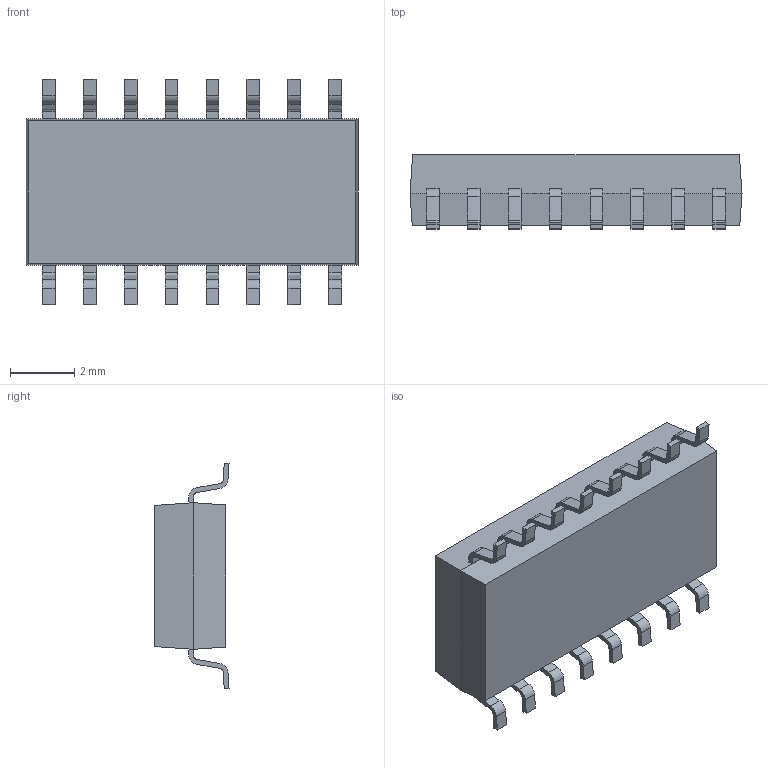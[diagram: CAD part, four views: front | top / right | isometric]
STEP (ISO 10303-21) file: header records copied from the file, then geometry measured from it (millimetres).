
FILE_DESCRIPTION (( 'STEP AP214' ), '1' );
FILE_NAME ('TLP291-4(GB,E).STEP', '2018-05-11T13:42:01', ( '' ), ( '' ), 'SwSTEP 2.0', 'SolidWorks 2017', '' );
FILE_SCHEMA (( 'AUTOMOTIVE_DESIGN' ));
Length unit declared in the file: millimetre
Products named in the file (1): TLP291-4(GB,E)
Bounding box: 10.3 x 2.3 x 7 mm (x, y, z)
Volume: 102.4 mm3; surface area: 191.5 mm2
Topology: 17 solids, 17 shells, 240 faces, 608 edges, 404 vertices
Faces by surface type: plane 172, cylinder 68
Entity records: 9684 total; most frequent: CARTESIAN_POINT 1253, DIRECTION 1226, ORIENTED_EDGE 1216, EDGE_CURVE 608, VECTOR 472, LINE 472, VERTEX_POINT 404, AXIS2_PLACEMENT_3D 377
